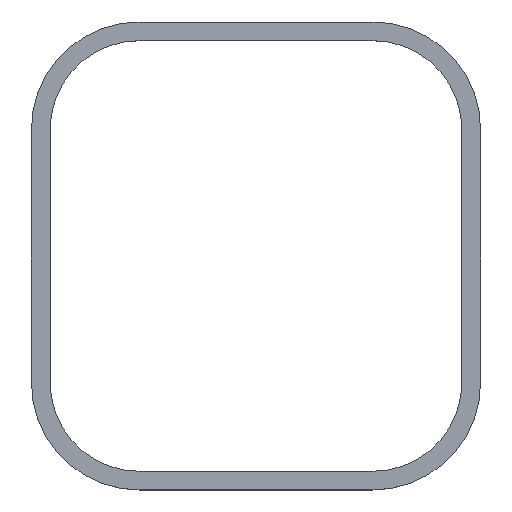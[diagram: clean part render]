
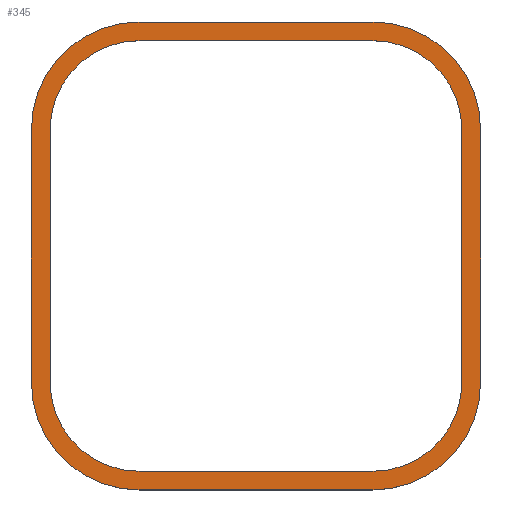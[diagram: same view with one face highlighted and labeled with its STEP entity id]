
A CAD part, top view. The second image highlights one B-rep face of the part: STEP entity #345.
In plain terms, the highlighted planar face has unit normal (0, 0, 1).
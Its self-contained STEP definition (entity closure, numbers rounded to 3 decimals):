
#15=FACE_BOUND('',#76,.T.);
#17=CIRCLE('',#363,9.5);
#19=CIRCLE('',#367,9.5);
#21=CIRCLE('',#371,9.5);
#23=CIRCLE('',#375,9.5);
#25=CIRCLE('',#378,11.5);
#27=CIRCLE('',#382,11.5);
#29=CIRCLE('',#386,11.5);
#31=CIRCLE('',#390,11.5);
#57=FACE_OUTER_BOUND('',#75,.T.);
#75=EDGE_LOOP('',(#287,#288,#289,#290,#291,#292,#293,#294));
#76=EDGE_LOOP('',(#295,#296,#297,#298,#299,#300,#301,#302));
#79=LINE('',#501,#111);
#84=LINE('',#515,#116);
#88=LINE('',#527,#120);
#92=LINE('',#539,#124);
#97=LINE('',#557,#129);
#101=LINE('',#569,#133);
#105=LINE('',#581,#137);
#109=LINE('',#592,#141);
#111=VECTOR('',#399,10.);
#116=VECTOR('',#412,10.);
#120=VECTOR('',#424,10.);
#124=VECTOR('',#436,10.);
#129=VECTOR('',#455,10.);
#133=VECTOR('',#467,10.);
#137=VECTOR('',#479,10.);
#141=VECTOR('',#491,10.);
#143=VERTEX_POINT('',#499);
#144=VERTEX_POINT('',#500);
#147=VERTEX_POINT('',#508);
#149=VERTEX_POINT('',#514);
#151=VERTEX_POINT('',#520);
#153=VERTEX_POINT('',#526);
#155=VERTEX_POINT('',#532);
#157=VERTEX_POINT('',#538);
#159=VERTEX_POINT('',#547);
#160=VERTEX_POINT('',#548);
#163=VERTEX_POINT('',#556);
#165=VERTEX_POINT('',#562);
#167=VERTEX_POINT('',#568);
#169=VERTEX_POINT('',#574);
#171=VERTEX_POINT('',#580);
#173=VERTEX_POINT('',#586);
#175=EDGE_CURVE('',#143,#144,#79,.T.);
#179=EDGE_CURVE('',#144,#147,#17,.T.);
#182=EDGE_CURVE('',#147,#149,#84,.T.);
#185=EDGE_CURVE('',#149,#151,#19,.T.);
#188=EDGE_CURVE('',#151,#153,#88,.T.);
#191=EDGE_CURVE('',#153,#155,#21,.T.);
#194=EDGE_CURVE('',#155,#157,#92,.T.);
#197=EDGE_CURVE('',#157,#143,#23,.T.);
#199=EDGE_CURVE('',#159,#160,#25,.T.);
#203=EDGE_CURVE('',#160,#163,#97,.T.);
#206=EDGE_CURVE('',#163,#165,#27,.T.);
#209=EDGE_CURVE('',#165,#167,#101,.T.);
#212=EDGE_CURVE('',#167,#169,#29,.T.);
#215=EDGE_CURVE('',#169,#171,#105,.T.);
#218=EDGE_CURVE('',#171,#173,#31,.T.);
#221=EDGE_CURVE('',#173,#159,#109,.T.);
#287=ORIENTED_EDGE('',*,*,#221,.T.);
#288=ORIENTED_EDGE('',*,*,#199,.T.);
#289=ORIENTED_EDGE('',*,*,#203,.T.);
#290=ORIENTED_EDGE('',*,*,#206,.T.);
#291=ORIENTED_EDGE('',*,*,#209,.T.);
#292=ORIENTED_EDGE('',*,*,#212,.T.);
#293=ORIENTED_EDGE('',*,*,#215,.T.);
#294=ORIENTED_EDGE('',*,*,#218,.T.);
#295=ORIENTED_EDGE('',*,*,#197,.T.);
#296=ORIENTED_EDGE('',*,*,#175,.T.);
#297=ORIENTED_EDGE('',*,*,#179,.T.);
#298=ORIENTED_EDGE('',*,*,#182,.T.);
#299=ORIENTED_EDGE('',*,*,#185,.T.);
#300=ORIENTED_EDGE('',*,*,#188,.T.);
#301=ORIENTED_EDGE('',*,*,#191,.T.);
#302=ORIENTED_EDGE('',*,*,#194,.T.);
#327=PLANE('',#393);
#345=ADVANCED_FACE('',(#57,#15),#327,.T.);
#363=AXIS2_PLACEMENT_3D('',#509,#405,#406);
#367=AXIS2_PLACEMENT_3D('',#521,#417,#418);
#371=AXIS2_PLACEMENT_3D('',#533,#429,#430);
#375=AXIS2_PLACEMENT_3D('',#544,#441,#442);
#378=AXIS2_PLACEMENT_3D('',#549,#447,#448);
#382=AXIS2_PLACEMENT_3D('',#563,#460,#461);
#386=AXIS2_PLACEMENT_3D('',#575,#472,#473);
#390=AXIS2_PLACEMENT_3D('',#587,#484,#485);
#393=AXIS2_PLACEMENT_3D('',#594,#493,#494);
#399=DIRECTION('',(0.,1.,0.));
#405=DIRECTION('center_axis',(0.,0.,-1.));
#406=DIRECTION('ref_axis',(1.,0.,0.));
#412=DIRECTION('',(1.,0.,0.));
#417=DIRECTION('center_axis',(0.,0.,-1.));
#418=DIRECTION('ref_axis',(1.,0.,0.));
#424=DIRECTION('',(0.,-1.,0.));
#429=DIRECTION('center_axis',(0.,0.,-1.));
#430=DIRECTION('ref_axis',(1.,0.,0.));
#436=DIRECTION('',(-1.,0.,0.));
#441=DIRECTION('center_axis',(0.,0.,-1.));
#442=DIRECTION('ref_axis',(1.,0.,0.));
#447=DIRECTION('center_axis',(0.,0.,1.));
#448=DIRECTION('ref_axis',(1.,0.,0.));
#455=DIRECTION('',(0.,-1.,0.));
#460=DIRECTION('center_axis',(0.,0.,1.));
#461=DIRECTION('ref_axis',(1.,0.,0.));
#467=DIRECTION('',(1.,0.,0.));
#472=DIRECTION('center_axis',(0.,0.,1.));
#473=DIRECTION('ref_axis',(1.,0.,0.));
#479=DIRECTION('',(0.,1.,0.));
#484=DIRECTION('center_axis',(0.,0.,1.));
#485=DIRECTION('ref_axis',(1.,0.,0.));
#491=DIRECTION('',(-1.,0.,0.));
#493=DIRECTION('center_axis',(0.,0.,1.));
#494=DIRECTION('ref_axis',(1.,0.,0.));
#499=CARTESIAN_POINT('',(-22.,24.,0.95));
#500=CARTESIAN_POINT('',(-22.,51.,0.95));
#501=CARTESIAN_POINT('',(-22.,37.5,0.95));
#508=CARTESIAN_POINT('',(-12.5,60.5,0.95));
#509=CARTESIAN_POINT('Origin',(-12.5,51.,0.95));
#514=CARTESIAN_POINT('',(12.5,60.5,0.95));
#515=CARTESIAN_POINT('',(0.,60.5,0.95));
#520=CARTESIAN_POINT('',(22.,51.,0.95));
#521=CARTESIAN_POINT('Origin',(12.5,51.,0.95));
#526=CARTESIAN_POINT('',(22.,24.,0.95));
#527=CARTESIAN_POINT('',(22.,37.5,0.95));
#532=CARTESIAN_POINT('',(12.5,14.5,0.95));
#533=CARTESIAN_POINT('Origin',(12.5,24.,0.95));
#538=CARTESIAN_POINT('',(-12.5,14.5,0.95));
#539=CARTESIAN_POINT('',(0.,14.5,0.95));
#544=CARTESIAN_POINT('Origin',(-12.5,24.,0.95));
#547=CARTESIAN_POINT('',(-12.5,62.5,0.95));
#548=CARTESIAN_POINT('',(-24.,51.,0.95));
#549=CARTESIAN_POINT('Origin',(-12.5,51.,0.95));
#556=CARTESIAN_POINT('',(-24.,24.,0.95));
#557=CARTESIAN_POINT('',(-24.,37.5,0.95));
#562=CARTESIAN_POINT('',(-12.5,12.5,0.95));
#563=CARTESIAN_POINT('Origin',(-12.5,24.,0.95));
#568=CARTESIAN_POINT('',(12.5,12.5,0.95));
#569=CARTESIAN_POINT('',(0.,12.5,0.95));
#574=CARTESIAN_POINT('',(24.,24.,0.95));
#575=CARTESIAN_POINT('Origin',(12.5,24.,0.95));
#580=CARTESIAN_POINT('',(24.,51.,0.95));
#581=CARTESIAN_POINT('',(24.,37.5,0.95));
#586=CARTESIAN_POINT('',(12.5,62.5,0.95));
#587=CARTESIAN_POINT('Origin',(12.5,51.,0.95));
#592=CARTESIAN_POINT('',(0.,62.5,0.95));
#594=CARTESIAN_POINT('Origin',(0.,37.5,0.95));
